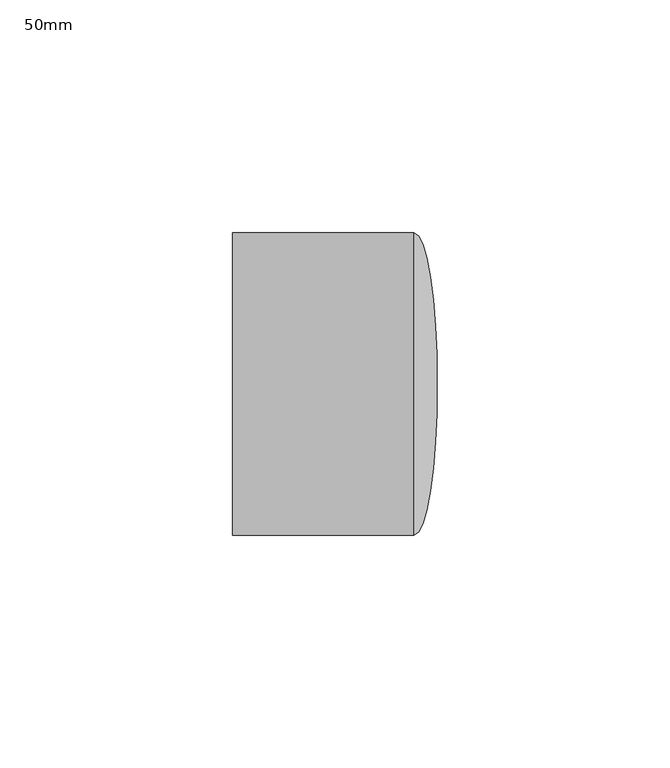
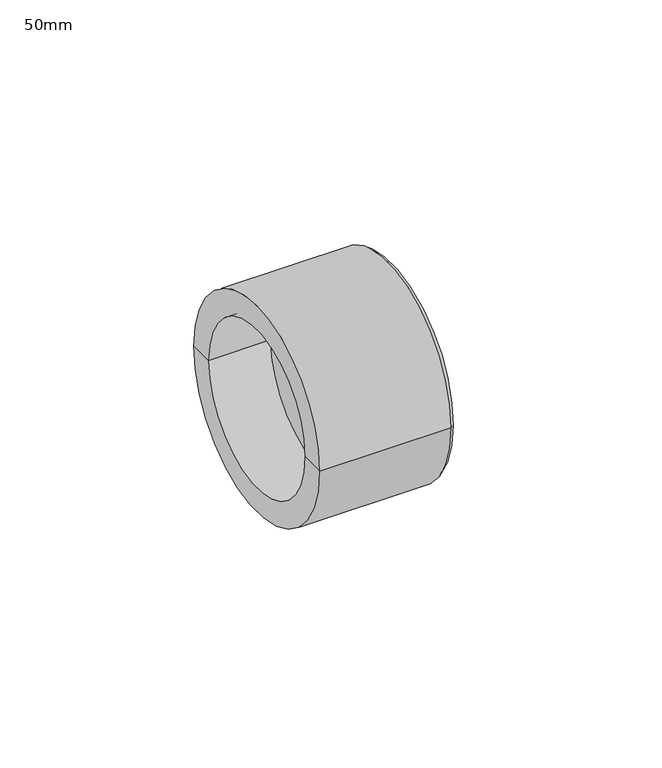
"""IFC4 building model written with IfcOpenShell, lengths in millimetres: pipe fitting geometry, PipeFitting_HTA_CPVC_Caps : 50mm."""

from ifc_helpers import new_model, si_unit, point, frame, origin, place, context, project, spatial, polyline, circle_curve, ellipse_curve, trimmed, source, transform, mapped, element, save
from ifc_brep_helpers import plane_surface, cylinder_surface, revolved_surface, advanced_brep


def pipe_fitting_50mm_5c547206(model_context):
    return source(origin(), model_context, "Body", "AdvancedBrep", [
        advanced_brep(
        [(17.05, -32.5, 0.0), (17.05, 32.5, 0.0), (22.0, 0.0, 0.0), (-22.0, -32.5, 0.0), (-22.0, 32.5, 0.0), (-22.0, -25.0, 0.0), (-22.0, 25.0, 0.0), (-3.4296875, -25.0, 0.0), (-3.4296875, 25.0, 0.0)],
        [
            (0, 1, circle_curve(frame((17.05, 0.0, 0.0), z_axis=(1.0, 0.0, 0.0), x_axis=(0.0, 1.0, 0.0)), 32.5)),
            (1, 2, ellipse_curve(frame((17.05, 0.0, 0.0), z_axis=(0.0, 0.0, -1.0), x_axis=(0.0, 1.0, 0.0)), 32.5, 4.95)),
            (2, 0, ellipse_curve(frame((17.05, 0.0, 0.0), z_axis=(0.0, 0.0, -1.0), x_axis=(0.0, -1.0, 0.0)), 32.5, 4.95)),
            (1, 0, circle_curve(frame((17.05, 0.0, 0.0), z_axis=(1.0, 0.0, 0.0), x_axis=(0.0, 1.0, 0.0)), 32.5)),
            (0, 3),
            (3, 4, circle_curve(frame((-22.0, 0.0, 0.0), z_axis=(1.0, 0.0, 0.0), x_axis=(0.0, 1.0, 0.0)), 32.5)),
            (4, 1),
            (4, 3, circle_curve(frame((-22.0, 0.0, 0.0), z_axis=(1.0, 0.0, 0.0), x_axis=(0.0, 1.0, 0.0)), 32.5)),
            (3, 5),
            (5, 6, circle_curve(frame((-22.0, 0.0, 0.0), z_axis=(1.0, 0.0, 0.0), x_axis=(0.0, 1.0, 0.0)), 25.0)),
            (6, 4),
            (6, 5, circle_curve(frame((-22.0, 0.0, 0.0), z_axis=(1.0, 0.0, 0.0), x_axis=(0.0, 1.0, 0.0)), 25.0)),
            (7, 8, circle_curve(frame((-3.4296875, 0.0, 0.0), z_axis=(-1.0, 0.0, 0.0), x_axis=(0.0, 1.0, 0.0)), 25.0)),
            (8, 7, circle_curve(frame((-3.4296875, 0.0, 0.0), z_axis=(-1.0, 0.0, 0.0), x_axis=(0.0, 1.0, 0.0)), 25.0)),
            (8, 6),
            (5, 7),
        ],
        [
            revolved_surface(trimmed(ellipse_curve(frame((17.05, 0.0, 0.0), z_axis=(0.0, 0.0, 1.0), x_axis=(0.0, 1.0, 0.0)), 32.5, 4.95), [point((22.0, 0.0, 0.0))], [point((17.05, 32.5, 0.0))], True, "CARTESIAN"), (-380.0, 0.0, 0.0), (-1.0, 0.0, 0.0)),
            cylinder_surface(frame((-380.0, 0.0, 0.0), z_axis=(-1.0, 0.0, 0.0), x_axis=(0.0, 1.0, 0.0)), 32.5),
            plane_surface(frame((-22.0, 0.0, 0.0), z_axis=(-1.0, 0.0, 0.0), x_axis=(0.0, 1.0, 0.0))),
            plane_surface(frame((-3.4296875, 25.0, 0.0), z_axis=(-1.0, 0.0, 0.0), x_axis=(0.0, 0.0, 1.0))),
            revolved_surface(polyline([(-3.4296875, 25.0, 0.0), (-22.0, 25.0, 0.0)]), (-22.0, 0.0, 0.0), (1.0, 0.0, 0.0)),
        ],
        [
            (0, [[1, 2, 3]]),
            (0, [[-2, 4, -3]]),
            (1, [[-1, 5, 6, 7]]),
            (1, [[-4, -7, 8, -5]]),
            (2, [[-6, 9, 10, 11]]),
            (2, [[-8, -11, 12, -9]]),
            (3, [[13, 14]]),
            (4, [[-14, 15, -10, 16]]),
            (4, [[-13, -16, -12, -15]]),
        ],
    ),
    ])


if __name__ == "__main__":
    model = new_model("IFC4")
    model_context = context("Model", 3, world=origin())
    ifc_project = project(units=[si_unit("LENGTHUNIT", "METRE", prefix="MILLI")], contexts=[model_context])
    site = spatial("IfcSite", under=ifc_project)
    building = spatial("IfcBuilding", under=site)
    placement = place(None, origin())
    pipe_fitting_50mm_shape = pipe_fitting_50mm_5c547206(model_context)
    element("IfcPipeFitting", 1, ObjectType="PipeFitting_HTA_CPVC_Caps : 50mm", at=placement, inside=building, context=model_context, shape_type="MappedRepresentation", body=[
        mapped(pipe_fitting_50mm_shape, transform((0.0, 0.0, 0.0), x_axis=(1.0, 0.0, 0.0), y_axis=(0.0, 1.0, 0.0), z_axis=(0.0, 0.0, 1.0))),
    ])
    save(model, "model.ifc")
